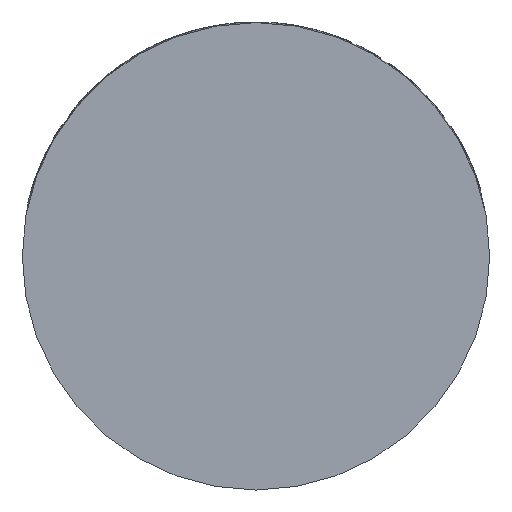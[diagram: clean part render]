
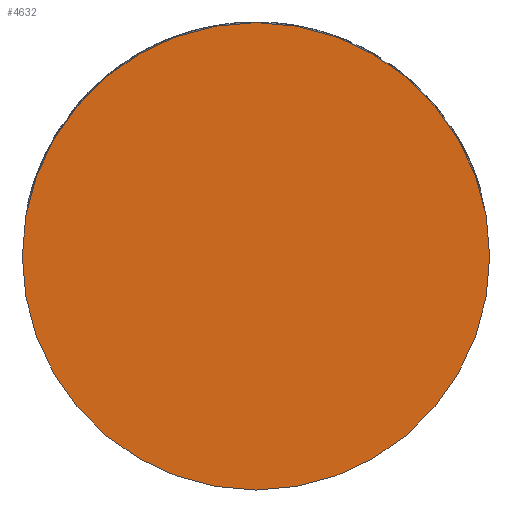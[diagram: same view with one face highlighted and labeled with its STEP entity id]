
A CAD part, front view. The second image highlights one B-rep face of the part: STEP entity #4632.
In plain terms, the highlighted planar face has unit normal (0, -1, 0).
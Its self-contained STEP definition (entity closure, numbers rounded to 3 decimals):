
#199=PLANE('',#4952);
#550=FACE_OUTER_BOUND('',#837,.T.);
#837=EDGE_LOOP('',(#4288));
#1627=CIRCLE('',#4944,38.);
#2276=VERTEX_POINT('',#9600);
#2950=EDGE_CURVE('',#2276,#2276,#1627,.T.);
#4288=ORIENTED_EDGE('',*,*,#2950,.T.);
#4632=ADVANCED_FACE('',(#550),#199,.F.);
#4944=AXIS2_PLACEMENT_3D('',#9601,#5887,#5888);
#4952=AXIS2_PLACEMENT_3D('',#9611,#5903,#5904);
#5887=DIRECTION('center_axis',(0.,-1.,0.));
#5888=DIRECTION('ref_axis',(1.,0.,0.));
#5903=DIRECTION('center_axis',(0.,1.,0.));
#5904=DIRECTION('ref_axis',(0.,0.,1.));
#9600=CARTESIAN_POINT('',(-38.,0.,0.));
#9601=CARTESIAN_POINT('Origin',(0.,0.,0.));
#9611=CARTESIAN_POINT('Origin',(0.,0.,0.));
